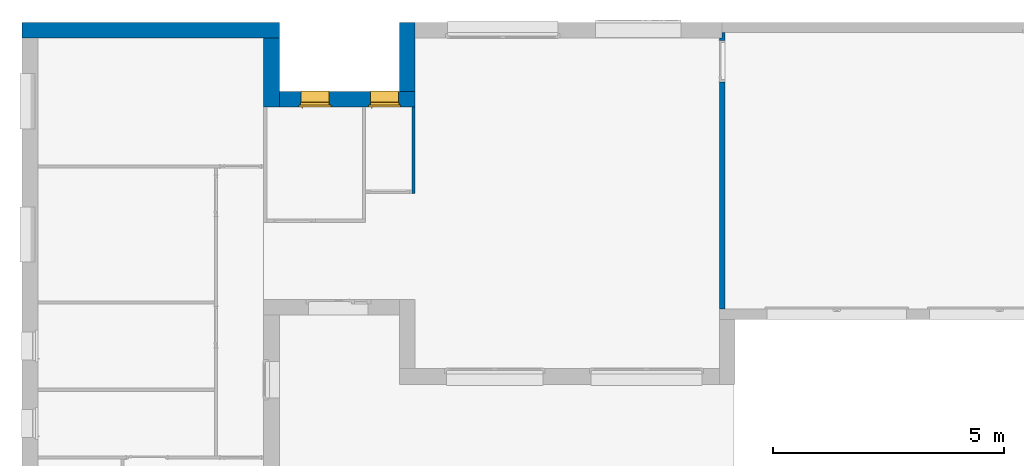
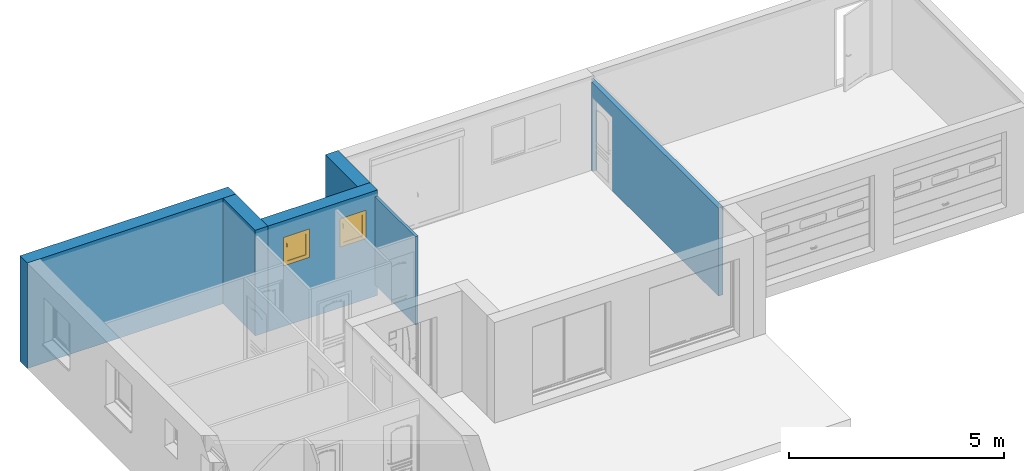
# One storey, part 18 of 23: 6 walls, 2 windows, 3 openings.
"""IFC2X3 building model written with IfcOpenShell, lengths in metres."""

from ifc_helpers import new_model, entity, si_unit, converted_unit, derived_unit, direction, frame, frame_2d, origin, place, context, subcontext, project, spatial, polyline, rectangle, outline, extrude, faceted_brep, source, transform, mapped, material, material_list, layer, layer_set, layer_usage, type_object, type_shapes, element, fill, save


model = new_model("IFC2X3")

# Units and contexts
model_context = context("Model", 3, precision=1e-05, world=origin(), true_north=direction((6.12303176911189e-17, 1.0)))
body_context = subcontext(model_context, "Body", "Model", "MODEL_VIEW")
ifc_project = project(units=[si_unit("LENGTHUNIT", "METRE"), si_unit("AREAUNIT", "SQUARE_METRE"), si_unit("VOLUMEUNIT", "CUBIC_METRE"), converted_unit("PLANEANGLEUNIT", "DEGREE", entity("IfcRatioMeasure", 0.0174532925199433), si_unit("PLANEANGLEUNIT", "RADIAN"), dimensions=[0, 0, 0, 0, 0, 0, 0]), si_unit("MASSUNIT", "GRAM", prefix="KILO"), derived_unit("MASSDENSITYUNIT", [(si_unit("MASSUNIT", "GRAM", prefix="KILO"), 1), (si_unit("LENGTHUNIT", "METRE"), -3)]), si_unit("TIMEUNIT", "SECOND"), si_unit("FREQUENCYUNIT", "HERTZ"), si_unit("THERMODYNAMICTEMPERATUREUNIT", "DEGREE_CELSIUS"), derived_unit("THERMALTRANSMITTANCEUNIT", [(si_unit("MASSUNIT", "GRAM", prefix="KILO"), 1), (si_unit("THERMODYNAMICTEMPERATUREUNIT", "KELVIN"), -1), (si_unit("TIMEUNIT", "SECOND"), -3)]), derived_unit("VOLUMETRICFLOWRATEUNIT", [(si_unit("LENGTHUNIT", "METRE"), 3), (si_unit("TIMEUNIT", "SECOND"), -1)]), si_unit("ELECTRICCURRENTUNIT", "AMPERE"), si_unit("ELECTRICVOLTAGEUNIT", "VOLT"), si_unit("POWERUNIT", "WATT"), si_unit("FORCEUNIT", "NEWTON", prefix="KILO"), si_unit("ILLUMINANCEUNIT", "LUX"), si_unit("LUMINOUSFLUXUNIT", "LUMEN"), si_unit("LUMINOUSINTENSITYUNIT", "CANDELA"), derived_unit("USERDEFINED", [(si_unit("MASSUNIT", "GRAM", prefix="KILO"), -1), (si_unit("LENGTHUNIT", "METRE"), -2), (si_unit("TIMEUNIT", "SECOND"), 3), (si_unit("LUMINOUSFLUXUNIT", "LUMEN"), 1)]), derived_unit("LINEARVELOCITYUNIT", [(si_unit("LENGTHUNIT", "METRE"), 1), (si_unit("TIMEUNIT", "SECOND"), -1)]), si_unit("PRESSUREUNIT", "PASCAL"), derived_unit("USERDEFINED", [(si_unit("LENGTHUNIT", "METRE"), -2), (si_unit("MASSUNIT", "GRAM", prefix="KILO"), 1), (si_unit("TIMEUNIT", "SECOND"), -2)])], contexts=[model_context])

# Site, building, storey
site_placement = place(None, origin())
site = spatial("IfcSite", under=ifc_project, at=site_placement, Name="Default", CompositionType="ELEMENT")
building_placement = place(site_placement, origin())
building = spatial("IfcBuilding", under=site, at=building_placement, CompositionType="ELEMENT")
storey_placement = place(building_placement, origin())
storey = spatial("IfcBuildingStorey", under=building, at=storey_placement, Name="2 - Rez de Chaussée", CompositionType="ELEMENT", Elevation=-1.94916083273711e-14)

# Walls
ifc_material_1 = material(Name="Maçonnerie - Enduit")
ifc_layer_1 = layer(ifc_material_1, 0.02)
ifc_material_2 = material(Name="Blocs béton manufacturés")
ifc_layer_2 = layer(ifc_material_2, 0.2)
ifc_material_3 = material(Name="TIFE, isolation extérieure")
ifc_layer_3 = layer(ifc_material_3, 0.12)
ifc_layer_set_1 = layer_set([ifc_layer_1, ifc_layer_2, ifc_layer_3], Name="Mur de base:Isolant 10+1 vide 1 Parpaing 20 Enduit 2")
ifc_layer_usage_1 = layer_usage(ifc_layer_set_1, "AXIS2", "NEGATIVE", 0.17)
wall_type_1 = type_object("IfcWallType", Name="Mur de base:Isolant 10+1 vide 1 Parpaing 20 Enduit 2", PredefinedType="STANDARD", material=ifc_layer_set_1)
wall_1_placement = place(storey_placement, frame((-9.9362224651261, 6.46805500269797, -0.32)))
element("IfcWallStandardCase", 1, at=wall_1_placement, inside=storey, type_object=wall_type_1, material=ifc_layer_usage_1, Name="Mur de base:Isolant 10+1 vide 1 Parpaing 20 Enduit 2", ObjectType="Mur de base:Isolant 10+1 vide 1 Parpaing 20 Enduit 2", context=body_context, shape_type="SweptSolid", body=[
    extrude(rectangle(XDim=5.58, YDim=0.340000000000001, at=frame_2d((2.79, 0.0), x_axis=(-1.0, 0.0))), origin(), (0.0, 0.0, 1.0), 2.99000000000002),
])
ifc_layer_usage_2 = layer_usage(ifc_layer_set_1, "AXIS2", "NEGATIVE", 0.17)
wall_2_placement = place(storey_placement, frame((-4.5262224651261, 6.29805500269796, -0.32), z_axis=(0.0, 0.0, 1.0), x_axis=(0.0, -1.0, 0.0)))
element("IfcWallStandardCase", 2, at=wall_2_placement, inside=storey, type_object=wall_type_1, material=ifc_layer_usage_2, Name="Mur de base:Isolant 10+1 vide 1 Parpaing 20 Enduit 2", ObjectType="Mur de base:Isolant 10+1 vide 1 Parpaing 20 Enduit 2", context=body_context, shape_type="SweptSolid", body=[
    extrude(rectangle(XDim=1.5, YDim=0.34, at=frame_2d((0.750000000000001, 0.0), x_axis=(-1.0, 0.0))), origin(), (0.0, 0.0, 1.0), 2.99000000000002),
])

# Wall, openings, windows
ifc_layer_usage_3 = layer_usage(ifc_layer_set_1, "AXIS2", "NEGATIVE", 0.17)
wall_3_placement = place(storey_placement, frame((-4.35622246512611, 4.96805500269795, -0.32)))
wall_3 = element("IfcWallStandardCase", 3, at=wall_3_placement, inside=storey, type_object=wall_type_1, material=ifc_layer_usage_3, Name="Mur de base:Isolant 10+1 vide 1 Parpaing 20 Enduit 2", ObjectType="Mur de base:Isolant 10+1 vide 1 Parpaing 20 Enduit 2", context=body_context, shape_type="SweptSolid", body=[
    extrude(rectangle(XDim=2.94, YDim=0.340000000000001, at=frame_2d((1.47, 4.9960036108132e-16), x_axis=(-1.0, 0.0))), origin(), (0.0, 0.0, 1.0), 2.99000000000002),
])
opening_1_placement = place(wall_3_placement, frame((0.42, -0.500000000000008, 1.64298850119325)))
opening_1 = element("IfcOpeningElement", 4, at=opening_1_placement, cuts=wall_3, Name="Mur de base:Isolant 10+1 vide 1 Parpaing 20 Enduit 2", ObjectType="Opening", context=body_context, shape_type="Brep", body=[
    faceted_brep([(0.0499999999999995, 0.40999999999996, 0.0770114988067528), (0.0499999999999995, 0.430000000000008, 0.0770114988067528), (0.0499999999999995, 0.430000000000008, 0.827011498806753), (0.0500000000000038, 1.0, 0.827011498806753), (0.0500000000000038, 1.0, 0.0), (0.0499999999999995, 0.40999999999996, 0.062011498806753), (0.649999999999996, 0.0, 0.0770114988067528), (0.649999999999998, 0.330000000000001, 0.0770114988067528), (0.649999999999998, 0.330000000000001, 0.827011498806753), (0.649999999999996, 0.0, 0.827011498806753), (0.0499999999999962, 0.0, 0.0770114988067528), (0.0499999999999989, 0.330000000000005, 0.0770114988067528), (0.0, 0.330000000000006, 0.0770114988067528), (0.0, 0.380000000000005, 0.0770114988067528), (0.0399999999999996, 0.380000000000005, 0.0770114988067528), (0.0399999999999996, 0.430000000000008, 0.0770114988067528), (0.649999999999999, 0.409999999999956, 0.0770114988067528), (0.649999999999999, 0.430000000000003, 0.0770114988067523), (0.659999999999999, 0.430000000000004, 0.0770114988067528), (0.659999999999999, 0.380000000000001, 0.0770114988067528), (0.699999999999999, 0.380000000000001, 0.0770114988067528), (0.699999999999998, 0.330000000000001, 0.0770114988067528), (0.0499999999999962, 0.0, 0.827011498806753), (0.649999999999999, 0.430000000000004, 0.827011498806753), (0.650000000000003, 1.0, 0.827011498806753), (0.650000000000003, 1.0, 0.0), (0.649999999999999, 0.409999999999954, 0.062011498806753), (0.0, 0.330000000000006, 0.877011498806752), (0.0, 0.380000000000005, 0.877011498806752), (0.699999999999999, 0.380000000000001, 0.877011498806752), (0.659999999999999, 0.380000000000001, 0.837011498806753), (0.0399999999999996, 0.380000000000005, 0.837011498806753), (0.0400000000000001, 0.430000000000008, 0.837011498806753), (0.659999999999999, 0.430000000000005, 0.837011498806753), (0.0499999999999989, 0.330000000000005, 0.827011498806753), (0.699999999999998, 0.330000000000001, 0.877011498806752)], [[[0, 1, 2, 3, 4, 5]], [[6, 7, 8, 9]], [[10, 11, 12, 13, 14, 15, 1, 0, 16, 17, 18, 19, 20, 21, 7, 6]], [[10, 6, 9, 22]], [[3, 2, 23, 24]], [[3, 24, 25, 4]], [[4, 25, 26, 5]], [[5, 26, 16, 0]], [[12, 27, 28, 13]], [[13, 28, 29, 20, 19, 30, 31, 14]], [[14, 31, 32, 15]], [[15, 32, 33, 18, 17, 23, 2, 1]], [[11, 34, 8, 7, 21, 35, 27, 12]], [[27, 35, 29, 28]], [[30, 33, 32, 31]], [[29, 35, 21, 20]], [[19, 18, 33, 30]], [[9, 8, 34, 22]], [[24, 23, 17, 16, 26, 25]], [[22, 34, 11, 10]]]),
])
opening_2_placement = place(wall_3_placement, frame((1.93, -0.500000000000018, 1.64298850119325)))
opening_2 = element("IfcOpeningElement", 5, at=opening_2_placement, cuts=wall_3, Name="Mur de base:Isolant 10+1 vide 1 Parpaing 20 Enduit 2", ObjectType="Opening", context=body_context, shape_type="Brep", body=[
    faceted_brep([(0.05, 0.40999999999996, 0.0770114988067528), (0.05, 0.430000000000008, 0.0770114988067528), (0.05, 0.430000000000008, 0.827011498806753), (0.0500000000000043, 1.0, 0.827011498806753), (0.0500000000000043, 1.0, 0.0), (0.05, 0.40999999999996, 0.062011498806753), (0.649999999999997, 0.0, 0.0770114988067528), (0.649999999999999, 0.330000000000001, 0.0770114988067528), (0.649999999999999, 0.330000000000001, 0.827011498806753), (0.649999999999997, 0.0, 0.827011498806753), (0.0499999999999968, 0.0, 0.0770114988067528), (0.0499999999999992, 0.330000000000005, 0.0770114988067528), (0.0, 0.330000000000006, 0.0770114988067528), (0.0, 0.380000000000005, 0.0770114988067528), (0.0400000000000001, 0.380000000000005, 0.0770114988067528), (0.0400000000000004, 0.430000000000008, 0.0770114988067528), (0.649999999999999, 0.409999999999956, 0.0770114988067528), (0.65, 0.430000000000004, 0.0770114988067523), (0.66, 0.430000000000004, 0.0770114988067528), (0.66, 0.380000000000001, 0.0770114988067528), (0.7, 0.380000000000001, 0.0770114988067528), (0.699999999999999, 0.330000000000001, 0.0770114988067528), (0.0499999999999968, 0.0, 0.827011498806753), (0.649999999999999, 0.430000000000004, 0.827011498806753), (0.650000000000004, 1.0, 0.827011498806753), (0.650000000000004, 1.0, 0.0), (0.65, 0.409999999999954, 0.062011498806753), (0.0, 0.330000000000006, 0.877011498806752), (0.0, 0.380000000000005, 0.877011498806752), (0.699999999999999, 0.380000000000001, 0.877011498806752), (0.66, 0.380000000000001, 0.837011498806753), (0.0400000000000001, 0.380000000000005, 0.837011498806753), (0.0400000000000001, 0.430000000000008, 0.837011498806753), (0.66, 0.430000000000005, 0.837011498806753), (0.0499999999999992, 0.330000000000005, 0.827011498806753), (0.699999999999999, 0.330000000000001, 0.877011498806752)], [[[0, 1, 2, 3, 4, 5]], [[6, 7, 8, 9]], [[10, 11, 12, 13, 14, 15, 1, 0, 16, 17, 18, 19, 20, 21, 7, 6]], [[10, 6, 9, 22]], [[3, 2, 23, 24]], [[3, 24, 25, 4]], [[4, 25, 26, 5]], [[5, 26, 16, 0]], [[12, 27, 28, 13]], [[13, 28, 29, 20, 19, 30, 31, 14]], [[14, 31, 32, 15]], [[15, 32, 33, 18, 17, 23, 2, 1]], [[11, 34, 8, 7, 21, 35, 27, 12]], [[27, 35, 29, 28]], [[30, 33, 32, 31]], [[29, 35, 21, 20]], [[19, 18, 33, 30]], [[9, 8, 34, 22]], [[24, 23, 17, 16, 26, 25]], [[22, 34, 11, 10]]]),
])
ifc_material_4 = material(Name="Fenêtre - Poignée")
ifc_material_5 = material(Name="Maçonnerie - Béton")
ifc_material_6 = material(Name="Fenêtre - Vitrage")
ifc_material_7 = material(Name="Fenêtre - Cadre")
ifc_material_list_1 = material_list([ifc_material_4, ifc_material_5, ifc_material_6, ifc_material_7])
ifc_material_list_2 = material_list([ifc_material_4, ifc_material_5, ifc_material_6, ifc_material_7])
window_style = type_object("IfcWindowStyle", Name="Fe  60 x 75 cm - Vitrage imprimé", ConstructionType="NOTDEFINED", OperationType="SINGLE_PANEL", ParameterTakesPrecedence=False, Sizeable=False, material=ifc_material_list_2)
shared_shape = source(origin(), body_context, "Body", "Brep", [
    faceted_brep([(0.0806460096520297, -0.67600000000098, 0.699045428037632), (0.08203392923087, -0.67600000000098, 0.697657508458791), (0.08203392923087, -0.67600000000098, 0.686343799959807), (0.0806676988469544, -0.67600000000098, 0.684977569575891), (0.0693323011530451, -0.67600000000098, 0.684977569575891), (0.0679660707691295, -0.67600000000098, 0.686343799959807), (0.0679660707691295, -0.67600000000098, 0.697657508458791), (0.0693539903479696, -0.67600000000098, 0.699045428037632), (0.0806460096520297, -0.688913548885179, 0.699045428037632), (0.08203392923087, -0.68833865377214, 0.697657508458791), (0.08203392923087, -0.70164600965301, 0.684350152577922), (0.08203392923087, -0.70164600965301, 0.597011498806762), (0.08203392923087, -0.690332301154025, 0.597011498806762), (0.08203392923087, -0.690332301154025, 0.679663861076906), (0.08203392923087, -0.683652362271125, 0.686343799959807), (0.0806676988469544, -0.683086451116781, 0.684977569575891), (0.0693323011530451, -0.683086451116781, 0.684977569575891), (0.0679660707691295, -0.683652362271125, 0.686343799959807), (0.0679660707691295, -0.690332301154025, 0.679663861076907), (0.0679660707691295, -0.690332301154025, 0.597011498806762), (0.0679660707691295, -0.70164600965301, 0.597011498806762), (0.0679660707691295, -0.70164600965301, 0.684350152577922), (0.0679660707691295, -0.68833865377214, 0.697657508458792), (0.0693539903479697, -0.688913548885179, 0.699045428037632), (0.0806460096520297, -0.70303392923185, 0.684925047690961), (0.0806676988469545, -0.688966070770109, 0.679097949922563), (0.0693323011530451, -0.688966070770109, 0.679097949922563), (0.0693539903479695, -0.70303392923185, 0.684925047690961), (0.0806460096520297, -0.70303392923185, 0.597011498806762), (0.0693539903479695, -0.70303392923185, 0.597011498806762), (0.0693323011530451, -0.688966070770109, 0.597011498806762), (0.0806676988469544, -0.688966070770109, 0.597011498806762)], [[[0, 1, 2, 3, 4, 5, 6, 7]], [[1, 0, 8, 9]], [[2, 1, 9, 10, 11, 12, 13, 14]], [[3, 2, 14, 15]], [[4, 3, 15, 16]], [[5, 4, 16, 17]], [[6, 5, 17, 18, 19, 20, 21, 22]], [[7, 6, 22, 23]], [[0, 7, 23, 8]], [[9, 8, 24, 10]], [[15, 14, 13, 25]], [[16, 15, 25, 26]], [[17, 16, 26, 18]], [[23, 22, 21, 27]], [[8, 23, 27, 24]], [[28, 29, 20, 19, 30, 31, 12, 11]], [[10, 24, 28, 11]], [[25, 13, 12, 31]], [[26, 25, 31, 30]], [[18, 26, 30, 19]], [[27, 21, 20, 29]], [[24, 27, 29, 28]]]),
    faceted_brep([(0.0820000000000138, -0.676000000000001, 0.717011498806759), (0.0679999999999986, -0.676000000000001, 0.717011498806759), (0.0629999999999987, -0.676000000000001, 0.71201149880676), (0.0629999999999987, -0.676000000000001, 0.642011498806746), (0.0679999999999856, -0.676000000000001, 0.637011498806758), (0.0820000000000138, -0.676000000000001, 0.637011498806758), (0.0869999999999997, -0.676000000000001, 0.642011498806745), (0.0869999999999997, -0.676000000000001, 0.71201149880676), (0.0820000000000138, -0.670000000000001, 0.717011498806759), (0.0869999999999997, -0.670000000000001, 0.71201149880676), (0.0869999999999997, -0.670000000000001, 0.642011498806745), (0.0820000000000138, -0.670000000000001, 0.637011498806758), (0.0679999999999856, -0.670000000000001, 0.637011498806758), (0.0629999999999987, -0.670000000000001, 0.642011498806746), (0.0629999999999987, -0.670000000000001, 0.71201149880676), (0.0679999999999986, -0.670000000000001, 0.717011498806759)], [[[0, 1, 2, 3, 4, 5, 6, 7]], [[8, 9, 10, 11, 12, 13, 14, 15]], [[1, 0, 8, 15]], [[2, 1, 15, 14]], [[3, 2, 14, 13]], [[4, 3, 13, 12]], [[5, 4, 12, 11]], [[6, 5, 11, 10]], [[7, 6, 10, 9]], [[0, 7, 9, 8]]]),
    faceted_brep([(0.649999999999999, -0.314999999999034, 0.0383630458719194), (0.649999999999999, -0.584999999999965, 0.0667411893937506), (0.649999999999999, -0.584999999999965, 0.077011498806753), (0.649999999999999, -0.589999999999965, 0.077011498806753), (0.649999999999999, -0.589999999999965, 0.0620114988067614), (0.649999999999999, -0.319999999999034, 0.0336333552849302), (0.649999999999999, -0.319999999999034, 0.0233328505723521), (0.649999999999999, -0.314999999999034, 0.0228073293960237), (0.0499999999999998, -0.314999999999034, 0.0383630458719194), (0.0499999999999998, -0.314999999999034, 0.0228073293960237), (0.0499999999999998, -0.319999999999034, 0.0233328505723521), (0.0499999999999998, -0.319999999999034, 0.0336333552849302), (0.0499999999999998, -0.589999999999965, 0.0620114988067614), (0.0499999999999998, -0.589999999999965, 0.077011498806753), (0.0499999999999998, -0.584999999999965, 0.077011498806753), (0.0499999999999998, -0.584999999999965, 0.0667411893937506)], [[[0, 1, 2, 3, 4, 5, 6, 7]], [[8, 9, 10, 11, 12, 13, 14, 15]], [[1, 0, 8, 15]], [[2, 1, 15, 14]], [[3, 2, 14, 13]], [[4, 3, 13, 12]], [[5, 4, 12, 11]], [[6, 5, 11, 10]], [[7, 6, 10, 9]], [[0, 7, 9, 8]]]),
    faceted_brep([(0.0500000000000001, -0.314999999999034, 0.0397889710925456), (0.0500000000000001, -0.314999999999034, 0.0383630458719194), (0.0499999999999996, -0.584999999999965, 0.0667411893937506), (0.0499999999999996, -0.584999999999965, 0.0717687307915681), (0.0500000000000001, -0.318581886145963, 0.0437670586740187), (0.0500000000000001, -0.316027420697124, 0.042465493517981), (0.0549999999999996, -0.584999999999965, 0.0717687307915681), (0.0549999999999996, -0.584999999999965, 0.0667411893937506), (0.0550000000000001, -0.314999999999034, 0.0383630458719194), (0.0550000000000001, -0.314999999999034, 0.0397889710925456), (0.0550000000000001, -0.316027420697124, 0.042465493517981), (0.0550000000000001, -0.318581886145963, 0.0437670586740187)], [[[0, 1, 2, 3, 4, 5]], [[6, 7, 8, 9, 10, 11]], [[2, 1, 8, 7]], [[3, 2, 7, 6]], [[4, 3, 6, 11]], [[4, 11, 10, 5]], [[10, 9, 0, 5]], [[1, 0, 9, 8]]]),
    faceted_brep([(0.645, -0.314999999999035, 0.0397889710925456), (0.645, -0.314999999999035, 0.0383630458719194), (0.644999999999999, -0.584999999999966, 0.0667411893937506), (0.644999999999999, -0.584999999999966, 0.0717687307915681), (0.645, -0.318581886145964, 0.0437670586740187), (0.645, -0.316027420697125, 0.042465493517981), (0.649999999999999, -0.584999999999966, 0.0717687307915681), (0.649999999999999, -0.584999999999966, 0.0667411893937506), (0.65, -0.314999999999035, 0.0383630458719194), (0.65, -0.314999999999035, 0.0397889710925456), (0.65, -0.316027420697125, 0.042465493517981), (0.65, -0.318581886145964, 0.0437670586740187)], [[[0, 1, 2, 3, 4, 5]], [[6, 7, 8, 9, 10, 11]], [[2, 1, 8, 7]], [[3, 2, 7, 6]], [[4, 3, 6, 11]], [[4, 11, 10, 5]], [[10, 9, 0, 5]], [[1, 0, 9, 8]]]),
    faceted_brep([(0.0999999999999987, -0.644000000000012, 0.177011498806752), (0.0999999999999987, -0.644000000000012, 0.777011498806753), (0.6, -0.644000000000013, 0.777011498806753), (0.6, -0.644000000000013, 0.177011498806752), (0.0999999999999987, -0.656000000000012, 0.177011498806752), (0.0999999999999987, -0.656000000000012, 0.777011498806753), (0.6, -0.656000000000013, 0.777011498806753), (0.6, -0.656000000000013, 0.177011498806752)], [[[0, 1, 2, 3]], [[1, 0, 4, 5]], [[3, 2, 6, 7]], [[0, 3, 7, 4]], [[4, 7, 6, 5]], [[2, 1, 5, 6]]]),
    faceted_brep([(0.099999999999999, -0.630000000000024, 0.777011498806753), (0.0999999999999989, -0.670000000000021, 0.777011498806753), (0.099999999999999, -0.670000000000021, 0.177011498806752), (0.0999999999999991, -0.630000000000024, 0.177011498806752), (0.6, -0.670000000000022, 0.177011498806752), (0.6, -0.630000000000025, 0.177011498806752), (0.6, -0.670000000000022, 0.777011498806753), (0.649999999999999, -0.670000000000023, 0.127011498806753), (0.649999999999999, -0.670000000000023, 0.827011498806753), (0.0499999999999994, -0.670000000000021, 0.827011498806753), (0.0499999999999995, -0.670000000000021, 0.127011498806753), (0.6, -0.630000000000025, 0.777011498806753), (0.0499999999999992, -0.630000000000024, 0.127011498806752), (0.0499999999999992, -0.630000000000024, 0.827011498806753), (0.65, -0.630000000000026, 0.827011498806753), (0.649999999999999, -0.630000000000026, 0.127011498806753)], [[[0, 1, 2, 3]], [[3, 2, 4, 5]], [[2, 1, 6, 4], [7, 8, 9, 10]], [[5, 4, 6, 11]], [[5, 11, 0, 3], [12, 13, 14, 15]], [[9, 13, 12, 10]], [[10, 12, 15, 7]], [[7, 15, 14, 8]], [[11, 6, 1, 0]], [[8, 14, 13, 9]]], outer=[[True], [True], [False, True], [True], [False, True], [True], [True], [True], [True], [True]]),
    faceted_brep([(0.0, -0.670000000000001, 0.077011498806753), (0.0, -0.620000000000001, 0.077011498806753), (0.0499999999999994, -0.620000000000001, 0.077011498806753), (0.0499999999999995, -0.570000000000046, 0.0770114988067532), (0.649999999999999, -0.570000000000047, 0.077011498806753), (0.649999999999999, -0.620000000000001, 0.0770114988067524), (0.699999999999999, -0.620000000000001, 0.077011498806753), (0.699999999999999, -0.670000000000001, 0.077011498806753), (0.0, -0.670000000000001, 0.877011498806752), (0.0, -0.620000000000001, 0.877011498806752), (0.699999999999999, -0.620000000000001, 0.877011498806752), (0.649999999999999, -0.620000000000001, 0.116387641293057), (0.0499999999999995, -0.620000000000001, 0.116387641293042), (0.0649999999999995, -0.620000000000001, 0.812011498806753), (0.0649999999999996, -0.620000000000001, 0.142011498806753), (0.634999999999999, -0.620000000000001, 0.142011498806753), (0.634999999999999, -0.620000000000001, 0.812011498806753), (0.0499999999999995, -0.560000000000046, 0.100310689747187), (0.0499999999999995, -0.560000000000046, 0.0720114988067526), (0.0499999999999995, -0.570000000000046, 0.0720114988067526), (0.649999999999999, -0.570000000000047, 0.0720114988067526), (0.649999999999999, -0.560000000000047, 0.0720114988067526), (0.649999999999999, -0.560000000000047, 0.100310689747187), (0.699999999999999, -0.670000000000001, 0.877011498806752), (0.649999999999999, -0.670000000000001, 0.827011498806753), (0.649999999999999, -0.670000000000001, 0.127011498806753), (0.0499999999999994, -0.67, 0.127011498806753), (0.0499999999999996, -0.670000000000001, 0.827011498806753), (0.0649999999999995, -0.630000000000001, 0.812011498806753), (0.0649999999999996, -0.630000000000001, 0.142011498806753), (0.634999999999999, -0.630000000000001, 0.142011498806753), (0.634999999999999, -0.630000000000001, 0.812011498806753), (0.649999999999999, -0.630000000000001, 0.827011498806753), (0.0499999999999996, -0.630000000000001, 0.827011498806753), (0.0499999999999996, -0.630000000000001, 0.127011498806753), (0.649999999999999, -0.630000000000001, 0.127011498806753)], [[[0, 1, 2, 3, 4, 5, 6, 7]], [[1, 0, 8, 9]], [[1, 9, 10, 6, 5, 11, 12, 2], [13, 14, 15, 16]], [[12, 17, 18, 19, 3, 2]], [[3, 19, 20, 4]], [[4, 20, 21, 22, 11, 5]], [[6, 10, 23, 7]], [[0, 7, 23, 8], [24, 25, 26, 27]], [[13, 28, 29, 14]], [[29, 30, 15, 14]], [[31, 16, 15, 30]], [[17, 12, 11, 22]], [[32, 33, 34, 35], [28, 31, 30, 29]], [[34, 33, 27, 26]], [[26, 25, 35, 34]], [[24, 32, 35, 25]], [[18, 17, 22, 21]], [[19, 18, 21, 20]], [[13, 16, 31, 28]], [[33, 32, 24, 27]], [[10, 9, 8, 23]]]),
    faceted_brep([(0.0499999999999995, -0.569999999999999, 0.077011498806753), (0.0499999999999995, -0.620000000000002, 0.077011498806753), (0.0399999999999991, -0.620000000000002, 0.077011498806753), (0.0399999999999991, -0.569999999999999, 0.077011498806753), (0.0499999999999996, -0.569999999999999, 0.827011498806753), (0.0499999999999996, -0.620000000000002, 0.827011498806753), (0.649999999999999, -0.620000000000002, 0.827011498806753), (0.649999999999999, -0.620000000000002, 0.077011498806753), (0.66, -0.620000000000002, 0.0770114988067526), (0.66, -0.620000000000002, 0.837011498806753), (0.0399999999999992, -0.620000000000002, 0.837011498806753), (0.0399999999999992, -0.569999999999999, 0.837011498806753), (0.66, -0.569999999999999, 0.837011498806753), (0.66, -0.569999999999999, 0.077011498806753), (0.649999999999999, -0.569999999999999, 0.0770114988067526), (0.649999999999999, -0.569999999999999, 0.827011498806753)], [[[0, 1, 2, 3]], [[1, 0, 4, 5]], [[2, 1, 5, 6, 7, 8, 9, 10]], [[3, 2, 10, 11]], [[0, 3, 11, 12, 13, 14, 15, 4]], [[6, 15, 14, 7]], [[14, 13, 8, 7]], [[12, 9, 8, 13]], [[5, 4, 15, 6]], [[11, 10, 9, 12]]]),
])
type_shapes(window_style, [shared_shape])
window_1_placement = place(opening_1_placement, frame((0.0, 1.0, 0.0)))
window_1 = element("IfcWindow", 6, at=window_1_placement, inside=storey, type_object=window_style, material=ifc_material_list_1, Name="1 Vantail - Droit:Fe  60 x 75 cm - Vitrage imprimé", ObjectType="Fe  60 x 75 cm - Vitrage imprimé", OverallHeight=1.08, OverallWidth=0.699999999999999, context=body_context, shape_type="MappedRepresentation", body=[
    mapped(shared_shape, transform((0.0, 0.0, 0.0), scale=1.0)),
])
fill(opening_1, window_1)
ifc_material_list_3 = material_list([ifc_material_4, ifc_material_5, ifc_material_6, ifc_material_7])
window_2_placement = place(opening_2_placement, frame((0.0, 1.0, 0.0)))
window_2 = element("IfcWindow", 7, at=window_2_placement, inside=storey, type_object=window_style, material=ifc_material_list_3, Name="1 Vantail - Droit:Fe  60 x 75 cm - Vitrage imprimé", ObjectType="Fe  60 x 75 cm - Vitrage imprimé", OverallHeight=1.08, OverallWidth=0.699999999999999, context=body_context, shape_type="MappedRepresentation", body=[
    mapped(shared_shape, transform((0.0, 0.0, 0.0), scale=1.0)),
])
fill(opening_2, window_2)

# Walls
ifc_layer_usage_4 = layer_usage(ifc_layer_set_1, "AXIS2", "NEGATIVE", 0.17)
wall_4_placement = place(storey_placement, frame((-1.58622246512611, 5.13805500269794, -0.32), z_axis=(0.0, 0.0, 1.0), x_axis=(0.0, 1.0, 0.0)))
element("IfcWallStandardCase", 8, at=wall_4_placement, inside=storey, type_object=wall_type_1, material=ifc_layer_usage_4, Name="Mur de base:Isolant 10+1 vide 1 Parpaing 20 Enduit 2", ObjectType="Mur de base:Isolant 10+1 vide 1 Parpaing 20 Enduit 2", context=body_context, shape_type="SweptSolid", body=[
    extrude(rectangle(XDim=1.5, YDim=0.34, at=frame_2d((0.750000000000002, 0.0), x_axis=(-1.0, 0.0))), origin(), (0.0, 0.0, 1.0), 2.99000000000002),
])
ifc_material_8 = material(Name="Mur par défaut")
ifc_layer_4 = layer(ifc_material_8, 0.07)
ifc_layer_set_2 = layer_set([ifc_layer_4], Name="Mur de base:Cloison distributive Placostil® 72/48 - 1x Placoplatre® BA 13 avec M 48 - EI30 - 33dB - max 3,45m")
ifc_layer_usage_5 = layer_usage(ifc_layer_set_2, "AXIS2", "NEGATIVE", 0.035)
wall_type_2 = type_object("IfcWallType", Name="Mur de base:Cloison distributive Placostil® 72/48 - 1x Placoplatre® BA 13 avec M 48 - EI30 - 33dB - max 3,45m", PredefinedType="STANDARD", material=ifc_layer_set_2)
wall_5_placement = place(storey_placement, frame((-1.45122246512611, 4.79805500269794, 0.0), z_axis=(0.0, 0.0, 1.0), x_axis=(0.0, -1.0, 0.0)))
element("IfcWallStandardCase", 9, at=wall_5_placement, inside=storey, type_object=wall_type_2, material=ifc_layer_usage_5, Name="Mur de base:Cloison distributive Placostil® 72/48 - 1x Placoplatre® BA 13 avec M 48 - EI30 - 33dB - max 3,45m", ObjectType="Mur de base:Cloison distributive Placostil® 72/48 - 1x Placoplatre® BA 13 avec M 48 - EI30 - 33dB - max 3,45m", context=body_context, shape_type="SweptSolid", body=[
    extrude(rectangle(XDim=1.87, YDim=0.0699999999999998, at=frame_2d((0.935000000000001, -4.85722573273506e-17), x_axis=(-1.0, 0.0))), origin(), (0.0, 0.0, 1.0), 2.50000000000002),
])

# Wall, opening
ifc_material_9 = material(Name="Plâtre")
ifc_layer_5 = layer(ifc_material_9, 0.01)
ifc_layer_6 = layer(ifc_material_8, 0.1)
ifc_layer_7 = layer(ifc_material_9, 0.01)
ifc_layer_set_3 = layer_set([ifc_layer_5, ifc_layer_6, ifc_layer_7], Name="Mur de base:CLOISON KMA 22 120/48 - 4KS13 - 56DB - EI60 - 2,8M - MONTANT DOUBLE - ENTRAXE 600")
ifc_layer_usage_6 = layer_usage(ifc_layer_set_3, "AXIS2", "POSITIVE", -0.06)
wall_type_3 = type_object("IfcWallType", Name="Mur de base:CLOISON KMA 22 120/48 - 4KS13 - 56DB - EI60 - 2,8M - MONTANT DOUBLE - ENTRAXE 600", PredefinedType="STANDARD", material=ifc_layer_set_3)
wall_6_placement = place(storey_placement, frame((5.2437775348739, 0.418055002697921, 0.0), z_axis=(0.0, 0.0, 1.0), x_axis=(0.0, 1.0, 0.0)))
wall_6 = element("IfcWallStandardCase", 10, at=wall_6_placement, inside=storey, type_object=wall_type_3, material=ifc_layer_usage_6, Name="Mur de base:CLOISON KMA 22 120/48 - 4KS13 - 56DB - EI60 - 2,8M - MONTANT DOUBLE - ENTRAXE 600", ObjectType="Mur de base:CLOISON KMA 22 120/48 - 4KS13 - 56DB - EI60 - 2,8M - MONTANT DOUBLE - ENTRAXE 600", context=body_context, shape_type="SweptSolid", body=[
    extrude(outline(polyline([(0.0, -0.0599999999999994), (6.0, -0.059999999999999), (6.0, 0.0), (5.88, 0.0), (5.88, 0.0600000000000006), (0.0, 0.0600000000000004), (0.0, -0.0599999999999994)])), origin(), (0.0, 0.0, 1.0), 2.50000000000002),
])
opening_3_placement = place(wall_6_placement, frame((4.93000000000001, -0.0599999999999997, 0.0)))
element("IfcOpeningElement", 11, at=opening_3_placement, cuts=wall_6, Name="Int. Simple - moulures:PP Moulure cintrée (0.83 m x 2.04 m):1", ObjectType="Opening", context=body_context, shape_type="SweptSolid", body=[
    extrude(rectangle(XDim=2.075, YDim=0.9, at=frame_2d((1.0375, 0.45), x_axis=(1.0, 0.0))), frame((0.0, 0.0, 0.0), z_axis=(0.0, 1.0, 0.0), x_axis=(0.0, 0.0, 1.0)), (0.0, 0.0, 1.0), 0.12),
])

save(model, "model.ifc")
